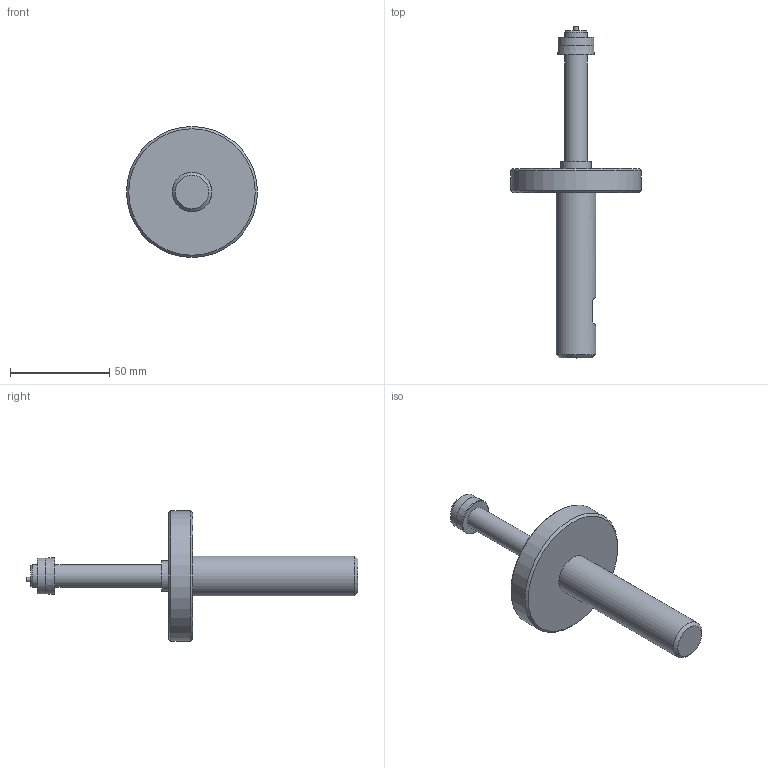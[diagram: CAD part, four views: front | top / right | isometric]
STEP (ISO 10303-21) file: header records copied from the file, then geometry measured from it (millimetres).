
FILE_DESCRIPTION (( 'STEP AP203' ), '1' );
FILE_NAME ('AF44-SIMPLE - AF44-11.50M-18.50M.step', '2025-01-21T15:04:52', ( '' ), ( '' ), 'SwSTEP 2.0', 'SolidWorks 2024', '' );
FILE_SCHEMA (( 'CONFIG_CONTROL_DESIGN' ));
Length unit declared in the file: inch
Products named in the file (1): AF44-SIMPLE - AF44-11.50M-18.50M
Bounding box: 66.04 x 167.39 x 66.04 mm (x, y, z)
Volume: 76184.8 mm3; surface area: 17311.7 mm2
Topology: 1 solids, 1 shells, 24 faces, 40 edges, 25 vertices
Faces by surface type: plane 11, cylinder 7, cone 5, torus 1
Full cylindrical faces by diameter (mm): 2.286 x1, 11.379 x2, 15.24 x1, 17.994 x1, 20 x1, 66.04 x1
Entity records: 569 total; most frequent: DIRECTION 94, CARTESIAN_POINT 81, ORIENTED_EDGE 52, AXIS2_PLACEMENT_3D 45, EDGE_LOOP 44, FACE_OUTER_BOUND 32, EDGE_CURVE 26, ADVANCED_FACE 24
